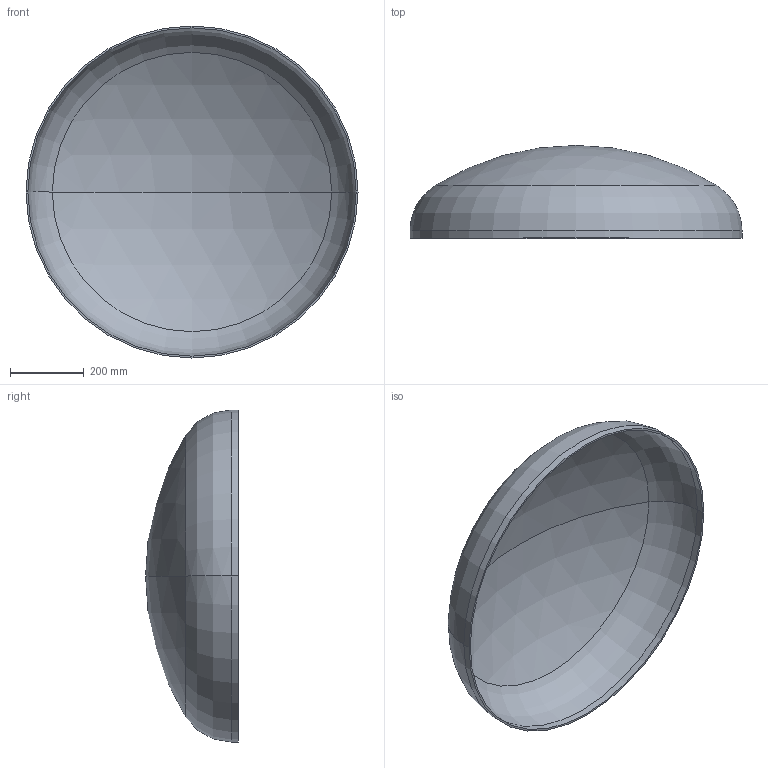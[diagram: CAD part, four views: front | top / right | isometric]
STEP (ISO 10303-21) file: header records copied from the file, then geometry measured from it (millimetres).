
FILE_DESCRIPTION (( 'STEP AP203' ), '1' );
FILE_NAME ('DIN 28013 Korbbogenform_-_Boden DIN 28013 - 900 x 20 - I - s=5.step', '2016-07-01T08:24:37', ( '' ), ( '' ), 'SwSTEP 2.0', 'SolidWorks 2013', '' );
FILE_SCHEMA (( 'CONFIG_CONTROL_DESIGN' ));
Length unit declared in the file: millimetre
Products named in the file (1): DIN 28013 Korbbogenform_-_Boden DIN 28013 - 900 x 20 - I - s=5
Bounding box: 900 x 251.67 x 900 mm (x, y, z)
Volume: 4663118.7 mm3; surface area: 1879357.8 mm2
Topology: 1 solids, 1 shells, 13 faces, 24 edges, 14 vertices
Faces by surface type: torus 4, cylinder 4, sphere 4, plane 1
Entity records: 407 total; most frequent: DIRECTION 72, CARTESIAN_POINT 52, ORIENTED_EDGE 48, AXIS2_PLACEMENT_3D 34, EDGE_CURVE 24, CIRCLE 20, EDGE_LOOP 14, VERTEX_POINT 14
